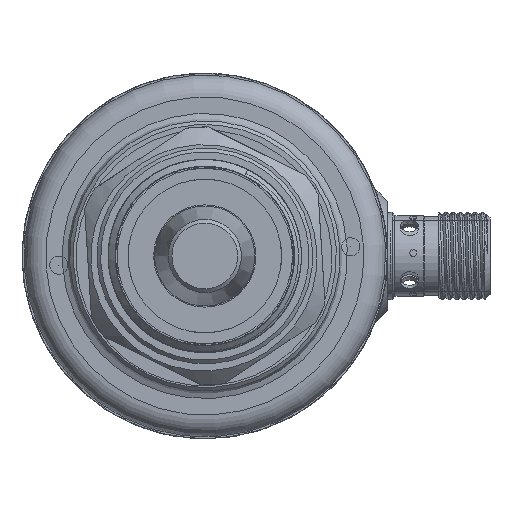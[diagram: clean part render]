
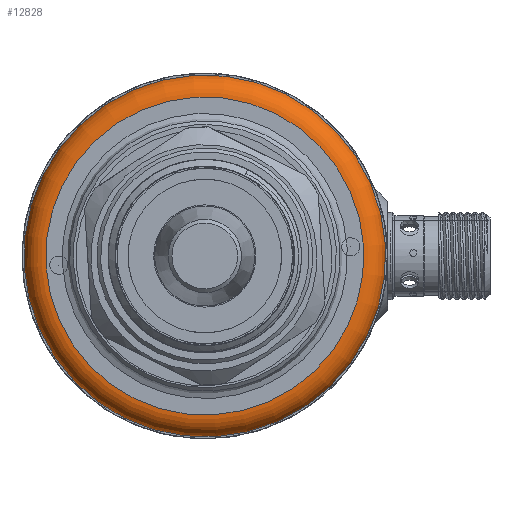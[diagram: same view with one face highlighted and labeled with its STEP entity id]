
A CAD part, front view. The second image highlights one B-rep face of the part: STEP entity #12828.
In plain terms, the highlighted toroidal (fillet/blend) face has major radius 21.75 mm and minor radius 3 mm.
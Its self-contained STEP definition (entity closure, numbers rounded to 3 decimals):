
#51 = ORIENTED_EDGE ( 'NONE', *, *, #7549, .F. ) ;
#327 = VERTEX_POINT ( 'NONE', #12046 ) ;
#1029 = TOROIDAL_SURFACE ( 'NONE', #4184, 21.75, 3. ) ;
#1120 = FACE_OUTER_BOUND ( 'NONE', #6997, .T. ) ;
#1181 = CARTESIAN_POINT ( 'NONE',  ( 41., 0., -0.275 ) ) ;
#1722 = ORIENTED_EDGE ( 'NONE', *, *, #9180, .F. ) ;
#1909 = DIRECTION ( 'NONE',  ( 0., 0., -1. ) ) ;
#2260 = FACE_OUTER_BOUND ( 'NONE', #4479, .T. ) ;
#3580 = CARTESIAN_POINT ( 'NONE',  ( 41., 0., -22.025 ) ) ;
#3629 = CIRCLE ( 'NONE', #6047, 24.75 ) ;
#4184 = AXIS2_PLACEMENT_3D ( 'NONE', #11199, #5587, #5656 ) ;
#4479 = EDGE_LOOP ( 'NONE', ( #1722 ) ) ;
#4509 = CIRCLE ( 'NONE', #11441, 21.75 ) ;
#5242 = CARTESIAN_POINT ( 'NONE',  ( 44., 0., -0.275 ) ) ;
#5587 = DIRECTION ( 'NONE',  ( 1., 0., 0. ) ) ;
#5656 = DIRECTION ( 'NONE',  ( 0., 0., -1. ) ) ;
#6047 = AXIS2_PLACEMENT_3D ( 'NONE', #5242, #12220, #1909 ) ;
#6997 = EDGE_LOOP ( 'NONE', ( #51 ) ) ;
#7549 = EDGE_CURVE ( 'NONE', #327, #327, #3629, .T. ) ;
#9180 = EDGE_CURVE ( 'NONE', #9786, #9786, #4509, .T. ) ;
#9786 = VERTEX_POINT ( 'NONE', #3580 ) ;
#11199 = CARTESIAN_POINT ( 'NONE',  ( 44., 0., -0.275 ) ) ;
#11441 = AXIS2_PLACEMENT_3D ( 'NONE', #1181, #14889, #13824 ) ;
#12046 = CARTESIAN_POINT ( 'NONE',  ( 44., 0., -25.025 ) ) ;
#12220 = DIRECTION ( 'NONE',  ( 1., 0., 0. ) ) ;
#12828 = ADVANCED_FACE ( 'NONE', ( #1120, #2260 ), #1029, .T. ) ;
#13824 = DIRECTION ( 'NONE',  ( 0., 0., -1. ) ) ;
#14889 = DIRECTION ( 'NONE',  ( -1., 0., 0. ) ) ;
